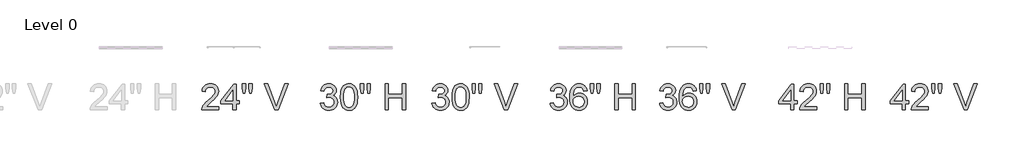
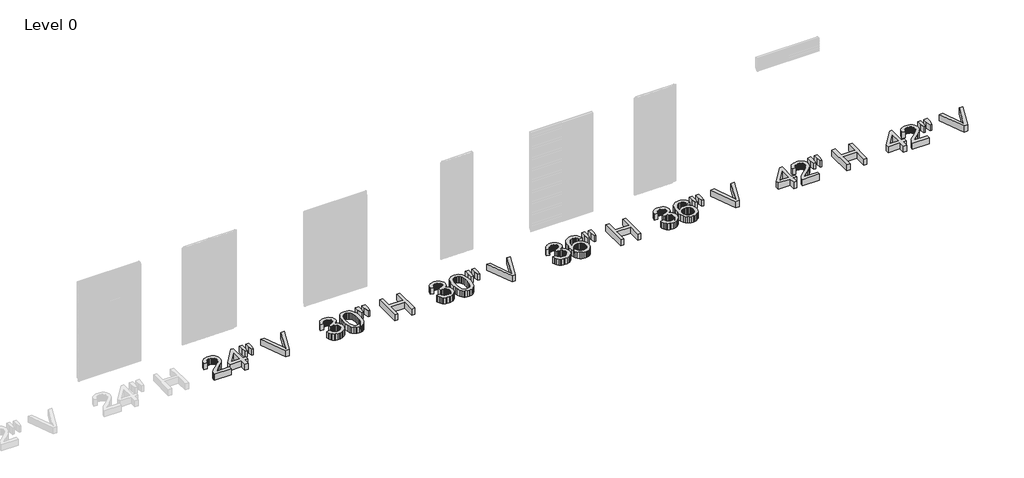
# One storey, part 3 of 5: 7 proxies.
"""IFC4 building model written with IfcOpenShell, lengths in millimetres."""

from ifc_helpers import new_model, si_unit, origin, origin_with_axes, place, context, project, spatial, polyline, outline, extrude, element, save

model = new_model("IFC4")

# Units and contexts
model_context = context("Model", 3, world=origin())
ifc_project = project(units=[si_unit("LENGTHUNIT", "METRE", prefix="MILLI")], contexts=[model_context])

# Site, building, storey
site = spatial("IfcSite", under=ifc_project)
building = spatial("IfcBuilding", under=site)
storey = spatial("IfcBuildingStorey", under=building, Name="Level 0", Elevation=0.0)

# Proxies
placement = place(None, origin())
element("IfcBuildingElementProxy", 1, Name="24\" Arial", ObjectType="24\" Arial", at=placement, inside=storey, context=model_context, shape_type="SweptSolid", body=[
    extrude(outline(polyline([(-22407.9539818, 9485.5823155), (-22407.9539818, 9409.440542), (-22807.6982928, 9409.440542), (-22806.0252557, 9436.2463129), (-22799.5190007, 9461.9367257), (-22780.7438075, 9502.9633112), (-22753.2688218, 9542.7630029), (-22713.5248981, 9584.4216246), (-22657.9428905, 9631.0250001), (-22575.7781838, 9704.0065926), (-22526.4793597, 9757.8783845), (-22512.100536, 9779.8881159), (-22501.8299477, 9801.6004185), (-22495.6675947, 9823.0152923), (-22493.613477, 9844.1327373), (-22495.5514115, 9864.0000519), (-22501.3652152, 9882.259392), (-22511.0548879, 9898.9107576), (-22524.6204297, 9913.9541488), (-22541.3089739, 9926.4136272), (-22560.3676539, 9935.3132547), (-22581.7964697, 9940.6530311), (-22605.5954213, 9942.4329566), (-22630.6677399, 9940.6948571), (-22653.0910832, 9935.4805584), (-22672.8654513, 9926.7900605), (-22689.990844, 9914.6233636), (-22703.84452, 9899.3894321), (-22713.8037376, 9881.4972307), (-22719.8684968, 9860.9467593), (-22722.0387975, 9837.7380181), (-22798.1805711, 9847.2557397), (-22791.6324901, 9886.562815), (-22779.721396, 9920.906547), (-22762.4472888, 9950.286936), (-22739.8101685, 9974.7039817), (-22712.3305355, 9993.8974342), (-22680.5288903, 10007.6070431), (-22644.4052327, 10015.8328084), (-22603.9595628, 10018.5747302), (-22563.1514016, 10015.5260849), (-22526.8325564, 10006.3801492), (-22495.0030272, 9991.1369231), (-22467.662814, 9969.7964065), (-22445.7042031, 9943.93869), (-22430.0194811, 9915.143864), (-22420.6086479, 9883.4119286), (-22417.4717035, 9848.7428838), (-22420.8549561, 9812.3264447), (-22431.004714, 9776.5420419), (-22449.0177459, 9740.1441921), (-22475.9908204, 9701.8874124), (-22518.9878717, 9656.2135018), (-22585.0728339, 9597.5642598), (-22672.6656163, 9524.3224171), (-22707.018643, 9485.5823155), (-22407.9539818, 9485.5823155)])), origin_with_axes(), (0.0, 0.0, 1.0), 152.4),
    extrude(outline(polyline([(-22084.3514443, 9409.440542), (-22084.3514443, 9552.2063674), (-22360.3653733, 9552.2063674), (-22360.3653733, 9628.3481409), (-22065.316001, 10009.0570085), (-22008.2096708, 10009.0570085), (-22008.2096708, 9628.3481409), (-21932.0678973, 9628.3481409), (-21932.0678973, 9552.2063674), (-22008.2096708, 9552.2063674), (-22008.2096708, 9409.440542), (-22084.3514443, 9409.440542)]), holes=[polyline([(-22084.3514443, 9628.3481409), (-22084.3514443, 9863.6143239), (-22266.6753005, 9628.3481409), (-22084.3514443, 9628.3481409)])]), origin_with_axes(), (0.0, 0.0, 1.0), 152.4),
    extrude(outline(polyline([(-21846.8545453, 9799.6671313), (-21865.4438455, 9917.3002228), (-21865.4438455, 10018.5747302), (-21789.302072, 10018.5747302), (-21789.302072, 9917.3002228), (-21805.9580849, 9799.6671313), (-21846.8545453, 9799.6671313)])), origin_with_axes(), (0.0, 0.0, 1.0), 152.4),
    extrude(outline(polyline([(-21695.0171415, 9799.6671313), (-21713.1602984, 9917.3002228), (-21713.1602984, 10018.5747302), (-21637.0185249, 10018.5747302), (-21637.0185249, 9917.3002228), (-21654.8642531, 9799.6671313), (-21695.0171415, 9799.6671313)])), origin_with_axes(), (0.0, 0.0, 1.0), 152.4),
    extrude(outline(polyline([(-21114.4361184, 9409.440542), (-21356.8405927, 10018.5747302), (-21275.3451007, 10018.5747302), (-21113.0976888, 9579.7185316), (-21080.2318061, 9480.8234547), (-21047.8120666, 9579.7185316), (-20885.1185114, 10018.5747302), (-20803.6230195, 10018.5747302), (-21035.7662001, 9409.440542), (-21114.4361184, 9409.440542)])), origin_with_axes(), (0.0, 0.0, 1.0), 152.4),
])
element("IfcBuildingElementProxy", 2, Name="24\" Arial", ObjectType="24\" Arial", at=placement, inside=storey, context=model_context, shape_type="SweptSolid", body=[
    extrude(outline(polyline([(-20054.9805711, 9571.2418107), (-19978.8387975, 9580.7595324), (-19961.7924093, 9532.9106738), (-19950.2995745, 9514.8139901), (-19936.8269792, 9500.6024701), (-19921.0678999, 9489.8671492), (-19902.7156133, 9482.1990629), (-19881.7701194, 9477.5982111), (-19858.231418, 9476.0645938), (-19830.6448966, 9478.1744794), (-19806.0326631, 9484.5041361), (-19784.3947177, 9495.053564), (-19765.7310603, 9509.822763), (-19750.7016111, 9527.7056697), (-19739.9662903, 9547.5962209), (-19733.5250978, 9569.4944165), (-19731.3780336, 9593.4002566), (-19733.5065085, 9616.1675019), (-19739.8919331, 9636.8806297), (-19750.5343074, 9655.5396397), (-19765.4336315, 9672.1445321), (-19783.6139671, 9685.7751364), (-19804.0993759, 9695.5112824), (-19826.8898579, 9701.35297), (-19851.9854132, 9703.3001992), (-19876.0399676, 9701.2181976), (-19905.3738833, 9694.9721927), (-19896.8971624, 9771.1139662), (-19884.7025815, 9770.2216798), (-19839.0844388, 9775.6869341), (-19798.2995142, 9792.0826968), (-19781.5133762, 9804.48176), (-19769.5232776, 9819.8179327), (-19762.3292184, 9838.0912148), (-19759.9311987, 9859.3016063), (-19761.6692983, 9876.5199455), (-19766.883597, 9892.1860783), (-19775.5740948, 9906.3000044), (-19787.7407917, 9918.861724), (-19802.6494105, 9929.1741383), (-19819.5656736, 9936.5401485), (-19838.4895812, 9940.9597546), (-19859.4211332, 9942.4329566), (-19880.2969173, 9940.9458126), (-19899.35095, 9936.4843806), (-19916.5832313, 9929.0486605), (-19931.9937611, 9918.6386524), (-19945.2014589, 9905.2543563), (-19955.8252439, 9888.8957721), (-19963.8651163, 9869.5629), (-19969.3210759, 9847.2557397), (-20045.4628494, 9856.7734614), (-20036.4377441, 9893.1248379), (-20023.0441534, 9925.1449075), (-20005.282077, 9952.8336701), (-19983.1515152, 9976.1911258), (-19957.3495665, 9994.7339527), (-19928.5733299, 10007.9788291), (-19896.8228052, 10015.9257549), (-19862.0979924, 10018.5747302), (-19814.2305445, 10013.3511368), (-19770.2668496, 9997.6803568), (-19733.199785, 9972.9565875), (-19706.0222282, 9940.5740266), (-19689.3476259, 9903.2653012), (-19683.7894252, 9863.7630383), (-19689.0687864, 9826.956224), (-19704.9068702, 9793.5698408), (-19731.0806048, 9765.1282116), (-19767.3669188, 9743.1556588), (-19741.992524, 9735.2180276), (-19719.7039531, 9723.8971438), (-19700.501206, 9709.1930073), (-19684.3842828, 9691.1056183), (-19671.6320229, 9670.0811198), (-19662.5232658, 9646.5656551), (-19657.0580115, 9620.5592241), (-19655.2362601, 9592.0618269), (-19658.8797629, 9553.4332612), (-19669.8102714, 9517.8533406), (-19688.0277856, 9485.3220653), (-19713.5323054, 9455.8394353), (-19744.6043207, 9431.3759162), (-19779.5243211, 9413.9019741), (-19818.2923066, 9403.4176088), (-19860.9082772, 9399.9228203), (-19899.4253072, 9402.906403), (-19934.5219059, 9411.857151), (-19966.1980734, 9426.7750644), (-19994.4538097, 9447.6601432), (-20018.1458728, 9473.2854935), (-20036.1310207, 9502.4242215), (-20048.4092535, 9535.0763273), (-20054.9805711, 9571.2418107)])), origin_with_axes(), (0.0, 0.0, 1.0), 152.4),
    extrude(outline(polyline([(-19588.6122083, 9709.1000608), (-19583.0168289, 9806.6009403), (-19576.0226047, 9847.9481912), (-19566.2306909, 9884.3599829), (-19553.6829132, 9916.1337442), (-19538.4210978, 9943.5669039), (-19520.4452445, 9966.6594621), (-19499.7553534, 9985.4114186), (-19476.2817146, 9999.9203674), (-19449.9546183, 10010.2839023), (-19420.7740643, 10016.5020232), (-19388.7400528, 10018.5747302), (-19341.8206591, 10013.6671549), (-19299.8088408, 9998.9444292), (-19264.6750634, 9974.9828212), (-19238.389793, 9942.3585994), (-19218.5364204, 9901.3506033), (-19202.6983366, 9852.2376722), (-19192.3255071, 9789.8705701), (-19188.8678973, 9709.1000608), (-19194.4075088, 9612.1568604), (-19201.3320231, 9570.9490293), (-19211.0263431, 9534.5837108), (-19223.4765269, 9502.7960075), (-19238.6686325, 9475.3210218), (-19256.6026598, 9452.1587538), (-19277.2786089, 9433.3092034), (-19300.7801317, 9418.7026608), (-19327.1908799, 9408.2694161), (-19356.5108536, 9402.0094693), (-19388.7400528, 9399.9228203), (-19430.677514, 9403.5477339), (-19467.8561143, 9414.4224745), (-19500.2758538, 9432.5470421), (-19527.9367325, 9457.9214369), (-19554.4822532, 9503.7905351), (-19573.4433393, 9560.9433384), (-19584.819991, 9629.379847), (-19588.6122083, 9709.1000608)]), holes=[polyline([(-19512.4704348, 9709.2487752), (-19510.2397187, 9643.0569246), (-19503.5475707, 9589.4779142), (-19492.3939906, 9548.511744), (-19476.7789784, 9520.1584139), (-19457.8922494, 9500.8673676), (-19436.9235188, 9487.0880488), (-19413.8727866, 9478.8204576), (-19388.7400528, 9476.0645938), (-19363.607319, 9478.8297522), (-19340.5565867, 9487.1252274), (-19319.5878561, 9500.9510195), (-19300.7011272, 9520.3071283), (-19285.086115, 9548.7069316), (-19273.9325349, 9589.6638072), (-19267.2403868, 9643.1777551), (-19265.0096708, 9709.2487752), (-19267.1660296, 9773.6885843), (-19273.6351061, 9826.3241877), (-19284.4169002, 9867.1555856), (-19299.511412, 9896.1827778), (-19318.0821228, 9916.417231), (-19339.2925143, 9930.8704119), (-19363.1425864, 9939.5423205), (-19389.6323392, 9942.4329566), (-19414.6349479, 9939.8862225), (-19437.2953048, 9932.2460201), (-19457.6134099, 9919.5123495), (-19475.5892632, 9901.6852107), (-19491.7247758, 9870.0834004), (-19503.2501419, 9827.4767244), (-19510.1653615, 9773.8651827), (-19512.4704348, 9709.2487752)])]), origin_with_axes(), (0.0, 0.0, 1.0), 152.4),
    extrude(outline(polyline([(-19103.6545453, 9799.6671313), (-19122.2438455, 9917.3002228), (-19122.2438455, 10018.5747302), (-19046.102072, 10018.5747302), (-19046.102072, 9917.3002228), (-19062.7580849, 9799.6671313), (-19103.6545453, 9799.6671313)])), origin_with_axes(), (0.0, 0.0, 1.0), 152.4),
    extrude(outline(polyline([(-18951.8171415, 9799.6671313), (-18969.9602984, 9917.3002228), (-18969.9602984, 10018.5747302), (-18893.8185249, 10018.5747302), (-18893.8185249, 9917.3002228), (-18911.6642531, 9799.6671313), (-18951.8171415, 9799.6671313)])), origin_with_axes(), (0.0, 0.0, 1.0), 152.4),
    extrude(outline(polyline([(-18551.1805441, 9409.440542), (-18551.1805441, 10018.5747302), (-18475.0387706, 10018.5747302), (-18475.0387706, 9771.1139662), (-18151.4362331, 9771.1139662), (-18151.4362331, 10018.5747302), (-18075.2944596, 10018.5747302), (-18075.2944596, 9409.440542), (-18151.4362331, 9409.440542), (-18151.4362331, 9694.9721927), (-18475.0387706, 9694.9721927), (-18475.0387706, 9409.440542), (-18551.1805441, 9409.440542)])), origin_with_axes(), (0.0, 0.0, 1.0), 152.4),
])
element("IfcBuildingElementProxy", 3, Name="24\" Arial", ObjectType="24\" Arial", at=placement, inside=storey, context=model_context, shape_type="SweptSolid", body=[
    extrude(outline(polyline([(-17464.1805711, 9571.2418107), (-17388.0387975, 9580.7595324), (-17370.9924093, 9532.9106738), (-17359.4995745, 9514.8139901), (-17346.0269792, 9500.6024701), (-17330.2678999, 9489.8671492), (-17311.9156133, 9482.1990629), (-17290.9701194, 9477.5982111), (-17267.431418, 9476.0645938), (-17239.8448966, 9478.1744794), (-17215.2326631, 9484.5041361), (-17193.5947177, 9495.053564), (-17174.9310603, 9509.822763), (-17159.9016111, 9527.7056697), (-17149.1662903, 9547.5962209), (-17142.7250978, 9569.4944165), (-17140.5780336, 9593.4002566), (-17142.7065085, 9616.1675019), (-17149.0919331, 9636.8806297), (-17159.7343074, 9655.5396397), (-17174.6336315, 9672.1445321), (-17192.8139671, 9685.7751364), (-17213.2993759, 9695.5112824), (-17236.0898579, 9701.35297), (-17261.1854132, 9703.3001992), (-17285.2399676, 9701.2181976), (-17314.5738833, 9694.9721927), (-17306.0971624, 9771.1139662), (-17293.9025815, 9770.2216798), (-17248.2844388, 9775.6869341), (-17207.4995142, 9792.0826968), (-17190.7133762, 9804.48176), (-17178.7232776, 9819.8179327), (-17171.5292184, 9838.0912148), (-17169.1311987, 9859.3016063), (-17170.8692983, 9876.5199455), (-17176.083597, 9892.1860783), (-17184.7740948, 9906.3000044), (-17196.9407917, 9918.861724), (-17211.8494105, 9929.1741383), (-17228.7656736, 9936.5401485), (-17247.6895812, 9940.9597546), (-17268.6211332, 9942.4329566), (-17289.4969173, 9940.9458126), (-17308.55095, 9936.4843806), (-17325.7832313, 9929.0486605), (-17341.1937611, 9918.6386524), (-17354.4014589, 9905.2543563), (-17365.0252439, 9888.8957721), (-17373.0651163, 9869.5629), (-17378.5210759, 9847.2557397), (-17454.6628494, 9856.7734614), (-17445.6377441, 9893.1248379), (-17432.2441534, 9925.1449075), (-17414.482077, 9952.8336701), (-17392.3515152, 9976.1911258), (-17366.5495665, 9994.7339527), (-17337.7733299, 10007.9788291), (-17306.0228052, 10015.9257549), (-17271.2979924, 10018.5747302), (-17223.4305445, 10013.3511368), (-17179.4668496, 9997.6803568), (-17142.399785, 9972.9565875), (-17115.2222282, 9940.5740266), (-17098.5476259, 9903.2653012), (-17092.9894252, 9863.7630383), (-17098.2687864, 9826.956224), (-17114.1068702, 9793.5698408), (-17140.2806048, 9765.1282116), (-17176.5669188, 9743.1556588), (-17151.192524, 9735.2180276), (-17128.9039531, 9723.8971438), (-17109.701206, 9709.1930073), (-17093.5842828, 9691.1056183), (-17080.8320229, 9670.0811198), (-17071.7232658, 9646.5656551), (-17066.2580115, 9620.5592241), (-17064.4362601, 9592.0618269), (-17068.0797629, 9553.4332612), (-17079.0102714, 9517.8533406), (-17097.2277856, 9485.3220653), (-17122.7323054, 9455.8394353), (-17153.8043207, 9431.3759162), (-17188.7243211, 9413.9019741), (-17227.4923066, 9403.4176088), (-17270.1082772, 9399.9228203), (-17308.6253072, 9402.906403), (-17343.7219059, 9411.857151), (-17375.3980734, 9426.7750644), (-17403.6538097, 9447.6601432), (-17427.3458728, 9473.2854935), (-17445.3310207, 9502.4242215), (-17457.6092535, 9535.0763273), (-17464.1805711, 9571.2418107)])), origin_with_axes(), (0.0, 0.0, 1.0), 152.4),
    extrude(outline(polyline([(-16997.8122083, 9709.1000608), (-16992.2168289, 9806.6009403), (-16985.2226047, 9847.9481912), (-16975.4306909, 9884.3599829), (-16962.8829132, 9916.1337442), (-16947.6210978, 9943.5669039), (-16929.6452445, 9966.6594621), (-16908.9553534, 9985.4114186), (-16885.4817146, 9999.9203674), (-16859.1546183, 10010.2839023), (-16829.9740643, 10016.5020232), (-16797.9400528, 10018.5747302), (-16751.0206591, 10013.6671549), (-16709.0088408, 9998.9444292), (-16673.8750634, 9974.9828212), (-16647.589793, 9942.3585994), (-16627.7364204, 9901.3506033), (-16611.8983366, 9852.2376722), (-16601.5255071, 9789.8705701), (-16598.0678973, 9709.1000608), (-16603.6075088, 9612.1568604), (-16610.5320231, 9570.9490293), (-16620.2263431, 9534.5837108), (-16632.6765269, 9502.7960075), (-16647.8686325, 9475.3210218), (-16665.8026598, 9452.1587538), (-16686.4786089, 9433.3092034), (-16709.9801317, 9418.7026608), (-16736.3908799, 9408.2694161), (-16765.7108536, 9402.0094693), (-16797.9400528, 9399.9228203), (-16839.877514, 9403.5477339), (-16877.0561143, 9414.4224745), (-16909.4758538, 9432.5470421), (-16937.1367325, 9457.9214369), (-16963.6822532, 9503.7905351), (-16982.6433393, 9560.9433384), (-16994.019991, 9629.379847), (-16997.8122083, 9709.1000608)]), holes=[polyline([(-16921.6704348, 9709.2487752), (-16919.4397187, 9643.0569246), (-16912.7475707, 9589.4779142), (-16901.5939906, 9548.511744), (-16885.9789784, 9520.1584139), (-16867.0922494, 9500.8673676), (-16846.1235188, 9487.0880488), (-16823.0727866, 9478.8204576), (-16797.9400528, 9476.0645938), (-16772.807319, 9478.8297522), (-16749.7565867, 9487.1252274), (-16728.7878561, 9500.9510195), (-16709.9011272, 9520.3071283), (-16694.286115, 9548.7069316), (-16683.1325349, 9589.6638072), (-16676.4403868, 9643.1777551), (-16674.2096708, 9709.2487752), (-16676.3660296, 9773.6885843), (-16682.8351061, 9826.3241877), (-16693.6169002, 9867.1555856), (-16708.711412, 9896.1827778), (-16727.2821228, 9916.417231), (-16748.4925143, 9930.8704119), (-16772.3425864, 9939.5423205), (-16798.8323392, 9942.4329566), (-16823.8349479, 9939.8862225), (-16846.4953048, 9932.2460201), (-16866.8134099, 9919.5123495), (-16884.7892632, 9901.6852107), (-16900.9247758, 9870.0834004), (-16912.4501419, 9827.4767244), (-16919.3653615, 9773.8651827), (-16921.6704348, 9709.2487752)])]), origin_with_axes(), (0.0, 0.0, 1.0), 152.4),
    extrude(outline(polyline([(-16512.8545453, 9799.6671313), (-16531.4438455, 9917.3002228), (-16531.4438455, 10018.5747302), (-16455.302072, 10018.5747302), (-16455.302072, 9917.3002228), (-16471.9580849, 9799.6671313), (-16512.8545453, 9799.6671313)])), origin_with_axes(), (0.0, 0.0, 1.0), 152.4),
    extrude(outline(polyline([(-16361.0171415, 9799.6671313), (-16379.1602984, 9917.3002228), (-16379.1602984, 10018.5747302), (-16303.0185249, 10018.5747302), (-16303.0185249, 9917.3002228), (-16320.8642531, 9799.6671313), (-16361.0171415, 9799.6671313)])), origin_with_axes(), (0.0, 0.0, 1.0), 152.4),
    extrude(outline(polyline([(-15780.4361184, 9409.440542), (-16022.8405927, 10018.5747302), (-15941.3451007, 10018.5747302), (-15779.0976888, 9579.7185316), (-15746.2318061, 9480.8234547), (-15713.8120666, 9579.7185316), (-15551.1185114, 10018.5747302), (-15469.6230195, 10018.5747302), (-15701.7662001, 9409.440542), (-15780.4361184, 9409.440542)])), origin_with_axes(), (0.0, 0.0, 1.0), 152.4),
])
element("IfcBuildingElementProxy", 4, Name="24\" Arial", ObjectType="24\" Arial", at=placement, inside=storey, context=model_context, shape_type="SweptSolid", body=[
    extrude(outline(polyline([(-14720.9805711, 9571.2418107), (-14644.8387975, 9580.7595324), (-14627.7924093, 9532.9106738), (-14616.2995745, 9514.8139901), (-14602.8269792, 9500.6024701), (-14587.0678999, 9489.8671492), (-14568.7156133, 9482.1990629), (-14547.7701194, 9477.5982111), (-14524.231418, 9476.0645938), (-14496.6448966, 9478.1744794), (-14472.0326631, 9484.5041361), (-14450.3947177, 9495.053564), (-14431.7310603, 9509.822763), (-14416.7016111, 9527.7056697), (-14405.9662903, 9547.5962209), (-14399.5250978, 9569.4944165), (-14397.3780336, 9593.4002566), (-14399.5065085, 9616.1675019), (-14405.8919331, 9636.8806297), (-14416.5343074, 9655.5396397), (-14431.4336315, 9672.1445321), (-14449.6139671, 9685.7751364), (-14470.0993759, 9695.5112824), (-14492.8898579, 9701.35297), (-14517.9854132, 9703.3001992), (-14542.0399676, 9701.2181976), (-14571.3738833, 9694.9721927), (-14562.8971624, 9771.1139662), (-14550.7025815, 9770.2216798), (-14505.0844388, 9775.6869341), (-14464.2995142, 9792.0826968), (-14447.5133762, 9804.48176), (-14435.5232776, 9819.8179327), (-14428.3292184, 9838.0912148), (-14425.9311987, 9859.3016063), (-14427.6692983, 9876.5199455), (-14432.883597, 9892.1860783), (-14441.5740948, 9906.3000044), (-14453.7407917, 9918.861724), (-14468.6494105, 9929.1741383), (-14485.5656736, 9936.5401485), (-14504.4895812, 9940.9597546), (-14525.4211332, 9942.4329566), (-14546.2969173, 9940.9458126), (-14565.35095, 9936.4843806), (-14582.5832313, 9929.0486605), (-14597.9937611, 9918.6386524), (-14611.2014589, 9905.2543563), (-14621.8252439, 9888.8957721), (-14629.8651163, 9869.5629), (-14635.3210759, 9847.2557397), (-14711.4628494, 9856.7734614), (-14702.4377441, 9893.1248379), (-14689.0441534, 9925.1449075), (-14671.282077, 9952.8336701), (-14649.1515152, 9976.1911258), (-14623.3495665, 9994.7339527), (-14594.5733299, 10007.9788291), (-14562.8228052, 10015.9257549), (-14528.0979924, 10018.5747302), (-14480.2305445, 10013.3511368), (-14436.2668496, 9997.6803568), (-14399.199785, 9972.9565875), (-14372.0222282, 9940.5740266), (-14355.3476259, 9903.2653012), (-14349.7894252, 9863.7630383), (-14355.0687864, 9826.956224), (-14370.9068702, 9793.5698408), (-14397.0806048, 9765.1282116), (-14433.3669188, 9743.1556588), (-14407.992524, 9735.2180276), (-14385.7039531, 9723.8971438), (-14366.501206, 9709.1930073), (-14350.3842828, 9691.1056183), (-14337.6320229, 9670.0811198), (-14328.5232658, 9646.5656551), (-14323.0580115, 9620.5592241), (-14321.2362601, 9592.0618269), (-14324.8797629, 9553.4332612), (-14335.8102714, 9517.8533406), (-14354.0277856, 9485.3220653), (-14379.5323054, 9455.8394353), (-14410.6043207, 9431.3759162), (-14445.5243211, 9413.9019741), (-14484.2923066, 9403.4176088), (-14526.9082772, 9399.9228203), (-14565.4253072, 9402.906403), (-14600.5219059, 9411.857151), (-14632.1980734, 9426.7750644), (-14660.4538097, 9447.6601432), (-14684.1458728, 9473.2854935), (-14702.1310207, 9502.4242215), (-14714.4092535, 9535.0763273), (-14720.9805711, 9571.2418107)])), origin_with_axes(), (0.0, 0.0, 1.0), 152.4),
    extrude(outline(polyline([(-13864.385619, 9856.7734614), (-13940.5273925, 9847.2557397), (-13952.7963306, 9884.9920191), (-13969.3779864, 9910.7567891), (-13985.7458652, 9924.6151124), (-14003.9169061, 9934.5139148), (-14023.8911091, 9940.4531962), (-14045.6684743, 9942.4329566), (-14081.0625018, 9937.8228102), (-14114.3745278, 9923.9923709), (-14142.9834607, 9894.8629375), (-14166.350211, 9854.765817), (-14175.4822048, 9829.1915873), (-14182.1325269, 9798.0498622), (-14187.9881564, 9719.0639257), (-14157.4459363, 9754.6996142), (-14120.8436042, 9779.8137587), (-14080.2259833, 9794.7037881), (-14037.6378966, 9799.6671313), (-14001.0541539, 9796.274584), (-13967.2959848, 9786.0969422), (-13936.3633893, 9769.1342058), (-13908.2563674, 9745.3863748), (-13884.8989117, 9716.2662361), (-13868.2150148, 9683.1865764), (-13858.2046767, 9646.1473958), (-13854.8678973, 9605.1486943), (-13856.4386932, 9577.3902218), (-13861.1510808, 9550.6262768), (-13869.0050601, 9524.8568595), (-13880.0006311, 9500.0819697), (-13893.7474186, 9477.2264251), (-13909.8550472, 9457.2150435), (-13928.3235169, 9440.0478248), (-13949.1528278, 9425.724769), (-13971.8968366, 9414.4364164), (-13996.1094, 9406.3733075), (-14021.7905182, 9401.5354421), (-14048.9401911, 9399.9228203), (-14094.3306148, 9404.1983594), (-14135.324669, 9417.0249765), (-14171.9223538, 9438.4026717), (-14204.123669, 9468.331445), (-14230.3764082, 9508.0753687), (-14249.1283647, 9558.8985154), (-14260.3795387, 9620.800885), (-14264.12993, 9693.7824775), (-14259.9659267, 9775.6032822), (-14247.473917, 9845.4339883), (-14226.6539008, 9903.2745958), (-14213.1208903, 9927.6986126), (-14197.5058781, 9949.1251047), (-14165.9133625, 9979.5093158), (-14129.2831465, 10001.2123238), (-14087.6152301, 10014.2341286), (-14040.9096135, 10018.5747302), (-14005.8408987, 10015.8885763), (-13974.0996686, 10007.8301147), (-13945.6859233, 9994.3993453), (-13920.5996627, 9975.5962682), (-13899.5193963, 9952.0529195), (-13883.1236336, 9924.4013355), (-13871.4123745, 9892.6415161), (-13864.385619, 9856.7734614)]), holes=[polyline([(-14187.9881564, 9606.3384095), (-14183.5824923, 9572.5988297), (-14170.3654999, 9540.3835725), (-14149.8429125, 9512.6855152), (-14123.5204634, 9492.4975352), (-14091.7513494, 9480.1728292), (-14054.8887672, 9476.0645938), (-14028.4222511, 9478.1930687), (-14004.6418888, 9484.5784933), (-13983.5476804, 9495.2208677), (-13965.1396259, 9510.1201918), (-13950.2077706, 9528.6723133), (-13939.5421596, 9550.2730801), (-13933.142793, 9574.9224922), (-13931.0096708, 9602.6205494), (-13933.1149091, 9629.23578), (-13939.4306238, 9652.8674278), (-13949.956815, 9673.515493), (-13964.6934827, 9691.1799755), (-13983.1573051, 9705.3310802), (-14004.8649604, 9715.4390122), (-14029.8164486, 9721.5037714), (-14058.0117696, 9723.5253578), (-14084.125089, 9721.5037714), (-14108.1842908, 9715.4390122), (-14130.1893749, 9705.3310802), (-14150.1403413, 9691.1799755), (-14166.6987604, 9673.7478592), (-14178.5262027, 9653.7968928), (-14185.622668, 9631.3270762), (-14187.9881564, 9606.3384095)])]), origin_with_axes(), (0.0, 0.0, 1.0), 152.4),
    extrude(outline(polyline([(-13769.6545453, 9799.6671313), (-13788.2438455, 9917.3002228), (-13788.2438455, 10018.5747302), (-13712.102072, 10018.5747302), (-13712.102072, 9917.3002228), (-13728.7580849, 9799.6671313), (-13769.6545453, 9799.6671313)])), origin_with_axes(), (0.0, 0.0, 1.0), 152.4),
    extrude(outline(polyline([(-13617.8171415, 9799.6671313), (-13635.9602984, 9917.3002228), (-13635.9602984, 10018.5747302), (-13559.8185249, 10018.5747302), (-13559.8185249, 9917.3002228), (-13577.6642531, 9799.6671313), (-13617.8171415, 9799.6671313)])), origin_with_axes(), (0.0, 0.0, 1.0), 152.4),
    extrude(outline(polyline([(-13217.1805441, 9409.440542), (-13217.1805441, 10018.5747302), (-13141.0387706, 10018.5747302), (-13141.0387706, 9771.1139662), (-12817.4362331, 9771.1139662), (-12817.4362331, 10018.5747302), (-12741.2944596, 10018.5747302), (-12741.2944596, 9409.440542), (-12817.4362331, 9409.440542), (-12817.4362331, 9694.9721927), (-13141.0387706, 9694.9721927), (-13141.0387706, 9409.440542), (-13217.1805441, 9409.440542)])), origin_with_axes(), (0.0, 0.0, 1.0), 152.4),
])
element("IfcBuildingElementProxy", 5, Name="24\" Arial", ObjectType="24\" Arial", at=placement, inside=storey, context=model_context, shape_type="SweptSolid", body=[
    extrude(outline(polyline([(-12180.9805711, 9571.2418107), (-12104.8387975, 9580.7595324), (-12087.7924093, 9532.9106738), (-12076.2995745, 9514.8139901), (-12062.8269792, 9500.6024701), (-12047.0678999, 9489.8671492), (-12028.7156133, 9482.1990629), (-12007.7701194, 9477.5982111), (-11984.231418, 9476.0645938), (-11956.6448966, 9478.1744794), (-11932.0326631, 9484.5041361), (-11910.3947177, 9495.053564), (-11891.7310603, 9509.822763), (-11876.7016111, 9527.7056697), (-11865.9662903, 9547.5962209), (-11859.5250978, 9569.4944165), (-11857.3780336, 9593.4002566), (-11859.5065085, 9616.1675019), (-11865.8919331, 9636.8806297), (-11876.5343074, 9655.5396397), (-11891.4336315, 9672.1445321), (-11909.6139671, 9685.7751364), (-11930.0993759, 9695.5112824), (-11952.8898579, 9701.35297), (-11977.9854132, 9703.3001992), (-12002.0399676, 9701.2181976), (-12031.3738833, 9694.9721927), (-12022.8971624, 9771.1139662), (-12010.7025815, 9770.2216798), (-11965.0844388, 9775.6869341), (-11924.2995142, 9792.0826968), (-11907.5133762, 9804.48176), (-11895.5232776, 9819.8179327), (-11888.3292184, 9838.0912148), (-11885.9311987, 9859.3016063), (-11887.6692983, 9876.5199455), (-11892.883597, 9892.1860783), (-11901.5740948, 9906.3000044), (-11913.7407917, 9918.861724), (-11928.6494105, 9929.1741383), (-11945.5656736, 9936.5401485), (-11964.4895812, 9940.9597546), (-11985.4211332, 9942.4329566), (-12006.2969173, 9940.9458126), (-12025.35095, 9936.4843806), (-12042.5832313, 9929.0486605), (-12057.9937611, 9918.6386524), (-12071.2014589, 9905.2543563), (-12081.8252439, 9888.8957721), (-12089.8651163, 9869.5629), (-12095.3210759, 9847.2557397), (-12171.4628494, 9856.7734614), (-12162.4377441, 9893.1248379), (-12149.0441534, 9925.1449075), (-12131.282077, 9952.8336701), (-12109.1515152, 9976.1911258), (-12083.3495665, 9994.7339527), (-12054.5733299, 10007.9788291), (-12022.8228052, 10015.9257549), (-11988.0979924, 10018.5747302), (-11940.2305445, 10013.3511368), (-11896.2668496, 9997.6803568), (-11859.199785, 9972.9565875), (-11832.0222282, 9940.5740266), (-11815.3476259, 9903.2653012), (-11809.7894252, 9863.7630383), (-11815.0687864, 9826.956224), (-11830.9068702, 9793.5698408), (-11857.0806048, 9765.1282116), (-11893.3669188, 9743.1556588), (-11867.992524, 9735.2180276), (-11845.7039531, 9723.8971438), (-11826.501206, 9709.1930073), (-11810.3842828, 9691.1056183), (-11797.6320229, 9670.0811198), (-11788.5232658, 9646.5656551), (-11783.0580115, 9620.5592241), (-11781.2362601, 9592.0618269), (-11784.8797629, 9553.4332612), (-11795.8102714, 9517.8533406), (-11814.0277856, 9485.3220653), (-11839.5323054, 9455.8394353), (-11870.6043207, 9431.3759162), (-11905.5243211, 9413.9019741), (-11944.2923066, 9403.4176088), (-11986.9082772, 9399.9228203), (-12025.4253072, 9402.906403), (-12060.5219059, 9411.857151), (-12092.1980734, 9426.7750644), (-12120.4538097, 9447.6601432), (-12144.1458728, 9473.2854935), (-12162.1310207, 9502.4242215), (-12174.4092535, 9535.0763273), (-12180.9805711, 9571.2418107)])), origin_with_axes(), (0.0, 0.0, 1.0), 152.4),
    extrude(outline(polyline([(-11324.385619, 9856.7734614), (-11400.5273925, 9847.2557397), (-11412.7963306, 9884.9920191), (-11429.3779864, 9910.7567891), (-11445.7458652, 9924.6151124), (-11463.9169061, 9934.5139148), (-11483.8911091, 9940.4531962), (-11505.6684743, 9942.4329566), (-11541.0625018, 9937.8228102), (-11574.3745278, 9923.9923709), (-11602.9834607, 9894.8629375), (-11626.350211, 9854.765817), (-11635.4822048, 9829.1915873), (-11642.1325269, 9798.0498622), (-11647.9881564, 9719.0639257), (-11617.4459363, 9754.6996142), (-11580.8436042, 9779.8137587), (-11540.2259833, 9794.7037881), (-11497.6378966, 9799.6671313), (-11461.0541539, 9796.274584), (-11427.2959848, 9786.0969422), (-11396.3633893, 9769.1342058), (-11368.2563674, 9745.3863748), (-11344.8989117, 9716.2662361), (-11328.2150148, 9683.1865764), (-11318.2046767, 9646.1473958), (-11314.8678973, 9605.1486943), (-11316.4386932, 9577.3902218), (-11321.1510808, 9550.6262768), (-11329.0050601, 9524.8568595), (-11340.0006311, 9500.0819697), (-11353.7474186, 9477.2264251), (-11369.8550472, 9457.2150435), (-11388.3235169, 9440.0478248), (-11409.1528278, 9425.724769), (-11431.8968366, 9414.4364164), (-11456.1094, 9406.3733075), (-11481.7905182, 9401.5354421), (-11508.9401911, 9399.9228203), (-11554.3306148, 9404.1983594), (-11595.324669, 9417.0249765), (-11631.9223538, 9438.4026717), (-11664.123669, 9468.331445), (-11690.3764082, 9508.0753687), (-11709.1283647, 9558.8985154), (-11720.3795387, 9620.800885), (-11724.12993, 9693.7824775), (-11719.9659267, 9775.6032822), (-11707.473917, 9845.4339883), (-11686.6539008, 9903.2745958), (-11673.1208903, 9927.6986126), (-11657.5058781, 9949.1251047), (-11625.9133625, 9979.5093158), (-11589.2831465, 10001.2123238), (-11547.6152301, 10014.2341286), (-11500.9096135, 10018.5747302), (-11465.8408987, 10015.8885763), (-11434.0996686, 10007.8301147), (-11405.6859233, 9994.3993453), (-11380.5996627, 9975.5962682), (-11359.5193963, 9952.0529195), (-11343.1236336, 9924.4013355), (-11331.4123745, 9892.6415161), (-11324.385619, 9856.7734614)]), holes=[polyline([(-11647.9881564, 9606.3384095), (-11643.5824923, 9572.5988297), (-11630.3654999, 9540.3835725), (-11609.8429125, 9512.6855152), (-11583.5204634, 9492.4975352), (-11551.7513494, 9480.1728292), (-11514.8887672, 9476.0645938), (-11488.4222511, 9478.1930687), (-11464.6418888, 9484.5784933), (-11443.5476804, 9495.2208677), (-11425.1396259, 9510.1201918), (-11410.2077706, 9528.6723133), (-11399.5421596, 9550.2730801), (-11393.142793, 9574.9224922), (-11391.0096708, 9602.6205494), (-11393.1149091, 9629.23578), (-11399.4306238, 9652.8674278), (-11409.956815, 9673.515493), (-11424.6934827, 9691.1799755), (-11443.1573051, 9705.3310802), (-11464.8649604, 9715.4390122), (-11489.8164486, 9721.5037714), (-11518.0117696, 9723.5253578), (-11544.125089, 9721.5037714), (-11568.1842908, 9715.4390122), (-11590.1893749, 9705.3310802), (-11610.1403413, 9691.1799755), (-11626.6987604, 9673.7478592), (-11638.5262027, 9653.7968928), (-11645.622668, 9631.3270762), (-11647.9881564, 9606.3384095)])]), origin_with_axes(), (0.0, 0.0, 1.0), 152.4),
    extrude(outline(polyline([(-11229.6545453, 9799.6671313), (-11248.2438455, 9917.3002228), (-11248.2438455, 10018.5747302), (-11172.102072, 10018.5747302), (-11172.102072, 9917.3002228), (-11188.7580849, 9799.6671313), (-11229.6545453, 9799.6671313)])), origin_with_axes(), (0.0, 0.0, 1.0), 152.4),
    extrude(outline(polyline([(-11077.8171415, 9799.6671313), (-11095.9602984, 9917.3002228), (-11095.9602984, 10018.5747302), (-11019.8185249, 10018.5747302), (-11019.8185249, 9917.3002228), (-11037.6642531, 9799.6671313), (-11077.8171415, 9799.6671313)])), origin_with_axes(), (0.0, 0.0, 1.0), 152.4),
    extrude(outline(polyline([(-10497.2361184, 9409.440542), (-10739.6405927, 10018.5747302), (-10658.1451007, 10018.5747302), (-10495.8976888, 9579.7185316), (-10463.0318061, 9480.8234547), (-10430.6120666, 9579.7185316), (-10267.9185114, 10018.5747302), (-10186.4230195, 10018.5747302), (-10418.5662001, 9409.440542), (-10497.2361184, 9409.440542)])), origin_with_axes(), (0.0, 0.0, 1.0), 152.4),
])
element("IfcBuildingElementProxy", 6, Name="24\" Arial", ObjectType="24\" Arial", at=placement, inside=storey, context=model_context, shape_type="SweptSolid", body=[
    extrude(outline(polyline([(-9139.5198071, 9409.440542), (-9139.5198071, 9552.2063674), (-9415.5337361, 9552.2063674), (-9415.5337361, 9628.3481409), (-9120.4843638, 10009.0570085), (-9063.3780336, 10009.0570085), (-9063.3780336, 9628.3481409), (-8987.2362601, 9628.3481409), (-8987.2362601, 9552.2063674), (-9063.3780336, 9552.2063674), (-9063.3780336, 9409.440542), (-9139.5198071, 9409.440542)]), holes=[polyline([(-9139.5198071, 9628.3481409), (-9139.5198071, 9863.6143239), (-9321.8436633, 9628.3481409), (-9139.5198071, 9628.3481409)])]), origin_with_axes(), (0.0, 0.0, 1.0), 152.4),
    extrude(outline(polyline([(-8530.385619, 9485.5823155), (-8530.385619, 9409.440542), (-8930.12993, 9409.440542), (-8928.4568929, 9436.2463129), (-8921.9506379, 9461.9367257), (-8903.1754447, 9502.9633112), (-8875.700459, 9542.7630029), (-8835.9565353, 9584.4216246), (-8780.3745278, 9631.0250001), (-8698.209821, 9704.0065926), (-8648.9109969, 9757.8783845), (-8634.5321732, 9779.8881159), (-8624.2615849, 9801.6004185), (-8618.0992319, 9823.0152923), (-8616.0451142, 9844.1327373), (-8617.9830487, 9864.0000519), (-8623.7968524, 9882.259392), (-8633.4865251, 9898.9107576), (-8647.0520669, 9913.9541488), (-8663.7406111, 9926.4136272), (-8682.7992911, 9935.3132547), (-8704.2281069, 9940.6530311), (-8728.0270585, 9942.4329566), (-8753.0993771, 9940.6948571), (-8775.5227204, 9935.4805584), (-8795.2970885, 9926.7900605), (-8812.4224813, 9914.6233636), (-8826.2761572, 9899.3894321), (-8836.2353748, 9881.4972307), (-8842.300134, 9860.9467593), (-8844.4704348, 9837.7380181), (-8920.6122083, 9847.2557397), (-8914.0641273, 9886.562815), (-8902.1530332, 9920.906547), (-8884.878926, 9950.286936), (-8862.2418057, 9974.7039817), (-8834.7621727, 9993.8974342), (-8802.9605275, 10007.6070431), (-8766.8368699, 10015.8328084), (-8726.3912, 10018.5747302), (-8685.5830388, 10015.5260849), (-8649.2641936, 10006.3801492), (-8617.4346644, 9991.1369231), (-8590.0944512, 9969.7964065), (-8568.1358403, 9943.93869), (-8552.4511183, 9915.143864), (-8543.0402851, 9883.4119286), (-8539.9033407, 9848.7428838), (-8543.2865933, 9812.3264447), (-8553.4363512, 9776.5420419), (-8571.4493831, 9740.1441921), (-8598.4224576, 9701.8874124), (-8641.4195089, 9656.2135018), (-8707.5044711, 9597.5642598), (-8795.0972535, 9524.3224171), (-8829.4502802, 9485.5823155), (-8530.385619, 9485.5823155)])), origin_with_axes(), (0.0, 0.0, 1.0), 152.4),
    extrude(outline(polyline([(-8435.6545453, 9799.6671313), (-8454.2438455, 9917.3002228), (-8454.2438455, 10018.5747302), (-8378.102072, 10018.5747302), (-8378.102072, 9917.3002228), (-8394.7580849, 9799.6671313), (-8435.6545453, 9799.6671313)])), origin_with_axes(), (0.0, 0.0, 1.0), 152.4),
    extrude(outline(polyline([(-8283.8171415, 9799.6671313), (-8301.9602984, 9917.3002228), (-8301.9602984, 10018.5747302), (-8225.8185249, 10018.5747302), (-8225.8185249, 9917.3002228), (-8243.6642531, 9799.6671313), (-8283.8171415, 9799.6671313)])), origin_with_axes(), (0.0, 0.0, 1.0), 152.4),
    extrude(outline(polyline([(-7883.1805441, 9409.440542), (-7883.1805441, 10018.5747302), (-7807.0387706, 10018.5747302), (-7807.0387706, 9771.1139662), (-7483.4362331, 9771.1139662), (-7483.4362331, 10018.5747302), (-7407.2944596, 10018.5747302), (-7407.2944596, 9409.440542), (-7483.4362331, 9409.440542), (-7483.4362331, 9694.9721927), (-7807.0387706, 9694.9721927), (-7807.0387706, 9409.440542), (-7883.1805441, 9409.440542)])), origin_with_axes(), (0.0, 0.0, 1.0), 152.4),
])
element("IfcBuildingElementProxy", 7, Name="24\" Arial", ObjectType="24\" Arial", at=placement, inside=storey, context=model_context, shape_type="SweptSolid", body=[
    extrude(outline(polyline([(-6548.7198071, 9409.440542), (-6548.7198071, 9552.2063674), (-6824.7337361, 9552.2063674), (-6824.7337361, 9628.3481409), (-6529.6843638, 10009.0570085), (-6472.5780336, 10009.0570085), (-6472.5780336, 9628.3481409), (-6396.4362601, 9628.3481409), (-6396.4362601, 9552.2063674), (-6472.5780336, 9552.2063674), (-6472.5780336, 9409.440542), (-6548.7198071, 9409.440542)]), holes=[polyline([(-6548.7198071, 9628.3481409), (-6548.7198071, 9863.6143239), (-6731.0436633, 9628.3481409), (-6548.7198071, 9628.3481409)])]), origin_with_axes(), (0.0, 0.0, 1.0), 152.4),
    extrude(outline(polyline([(-5939.585619, 9485.5823155), (-5939.585619, 9409.440542), (-6339.32993, 9409.440542), (-6337.6568929, 9436.2463129), (-6331.1506379, 9461.9367257), (-6312.3754447, 9502.9633112), (-6284.900459, 9542.7630029), (-6245.1565353, 9584.4216246), (-6189.5745278, 9631.0250001), (-6107.409821, 9704.0065926), (-6058.1109969, 9757.8783845), (-6043.7321732, 9779.8881159), (-6033.4615849, 9801.6004185), (-6027.2992319, 9823.0152923), (-6025.2451142, 9844.1327373), (-6027.1830487, 9864.0000519), (-6032.9968524, 9882.259392), (-6042.6865251, 9898.9107576), (-6056.2520669, 9913.9541488), (-6072.9406111, 9926.4136272), (-6091.9992911, 9935.3132547), (-6113.4281069, 9940.6530311), (-6137.2270585, 9942.4329566), (-6162.2993771, 9940.6948571), (-6184.7227204, 9935.4805584), (-6204.4970885, 9926.7900605), (-6221.6224813, 9914.6233636), (-6235.4761572, 9899.3894321), (-6245.4353748, 9881.4972307), (-6251.500134, 9860.9467593), (-6253.6704348, 9837.7380181), (-6329.8122083, 9847.2557397), (-6323.2641273, 9886.562815), (-6311.3530332, 9920.906547), (-6294.078926, 9950.286936), (-6271.4418057, 9974.7039817), (-6243.9621727, 9993.8974342), (-6212.1605275, 10007.6070431), (-6176.0368699, 10015.8328084), (-6135.5912, 10018.5747302), (-6094.7830388, 10015.5260849), (-6058.4641936, 10006.3801492), (-6026.6346644, 9991.1369231), (-5999.2944512, 9969.7964065), (-5977.3358403, 9943.93869), (-5961.6511183, 9915.143864), (-5952.2402851, 9883.4119286), (-5949.1033407, 9848.7428838), (-5952.4865933, 9812.3264447), (-5962.6363512, 9776.5420419), (-5980.6493831, 9740.1441921), (-6007.6224576, 9701.8874124), (-6050.6195089, 9656.2135018), (-6116.7044711, 9597.5642598), (-6204.2972535, 9524.3224171), (-6238.6502802, 9485.5823155), (-5939.585619, 9485.5823155)])), origin_with_axes(), (0.0, 0.0, 1.0), 152.4),
    extrude(outline(polyline([(-5844.8545453, 9799.6671313), (-5863.4438455, 9917.3002228), (-5863.4438455, 10018.5747302), (-5787.302072, 10018.5747302), (-5787.302072, 9917.3002228), (-5803.9580849, 9799.6671313), (-5844.8545453, 9799.6671313)])), origin_with_axes(), (0.0, 0.0, 1.0), 152.4),
    extrude(outline(polyline([(-5693.0171415, 9799.6671313), (-5711.1602984, 9917.3002228), (-5711.1602984, 10018.5747302), (-5635.0185249, 10018.5747302), (-5635.0185249, 9917.3002228), (-5652.8642531, 9799.6671313), (-5693.0171415, 9799.6671313)])), origin_with_axes(), (0.0, 0.0, 1.0), 152.4),
    extrude(outline(polyline([(-5112.4361184, 9409.440542), (-5354.8405927, 10018.5747302), (-5273.3451007, 10018.5747302), (-5111.0976888, 9579.7185316), (-5078.2318061, 9480.8234547), (-5045.8120666, 9579.7185316), (-4883.1185114, 10018.5747302), (-4801.6230195, 10018.5747302), (-5033.7662001, 9409.440542), (-5112.4361184, 9409.440542)])), origin_with_axes(), (0.0, 0.0, 1.0), 152.4),
])

save(model, "model.ifc")
